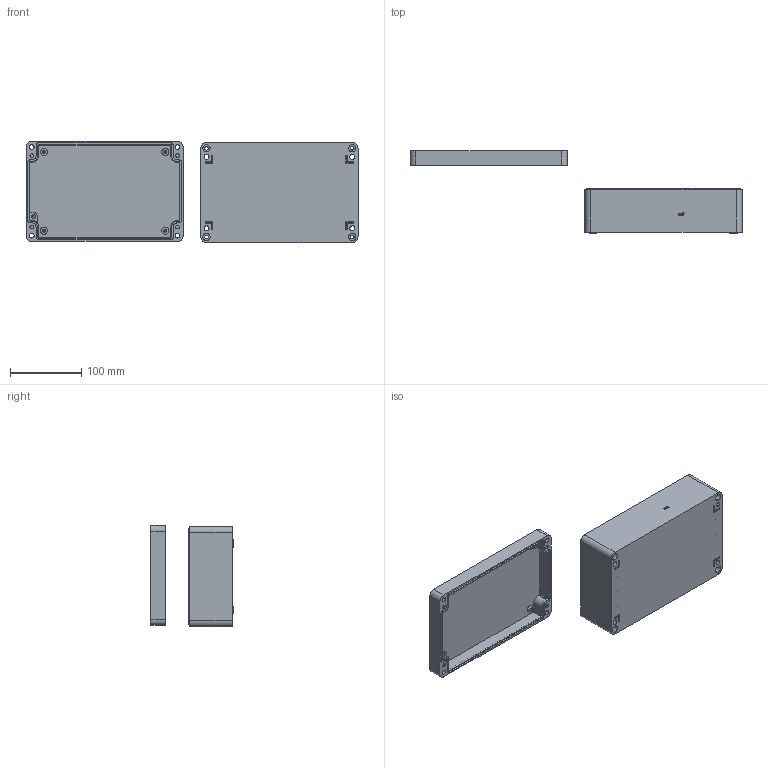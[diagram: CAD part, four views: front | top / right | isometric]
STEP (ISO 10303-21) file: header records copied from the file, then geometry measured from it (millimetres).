
FILE_DESCRIPTION (( 'STEP AP203' ), '1' );
FILE_NAME ('ZX-AL-142208_装配体.STEP', '2022-01-24T08:51:48', ( '微软用户' ), ( '微软中国' ), 'SwSTEP 2.0', 'SolidWorks 2020', '' );
FILE_SCHEMA (( 'CONFIG_CONTROL_DESIGN' ));
Length unit declared in the file: millimetre
Products named in the file (3): ZX-AL-142208_奻; ZX-AL-142208_蚾饜极; ZX-AL-142208_狟
Assembly tree (2 placements, depth 2):
  ZX-AL-142208_蚾饜极
    ZX-AL-142208_狟
    ZX-AL-142208_奻
Bounding box: 464.63 x 114.96 x 141.72 mm (x, y, z)
Volume: 462634.1 mm3; surface area: 251192.5 mm2
Topology: 2 solids, 2 shells, 703 faces, 1880 edges, 1221 vertices
Faces by surface type: plane 347, cylinder 181, bspline 123, cone 52
Entity records: 27688 total; most frequent: CARTESIAN_POINT 10446, ORIENTED_EDGE 3732, DIRECTION 3119, EDGE_CURVE 1866, VECTOR 1243, LINE 1243, VERTEX_POINT 1221, AXIS2_PLACEMENT_3D 938
